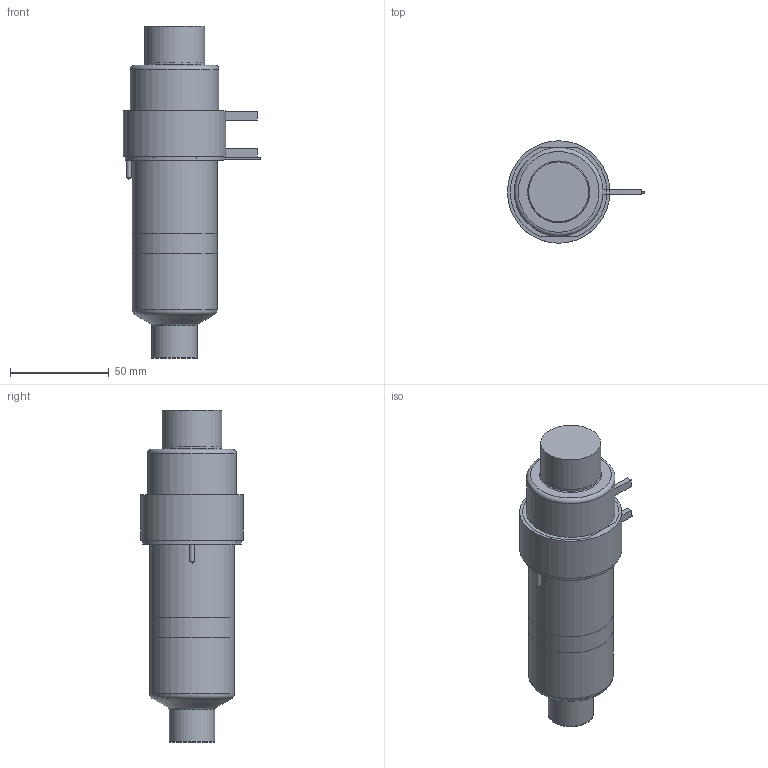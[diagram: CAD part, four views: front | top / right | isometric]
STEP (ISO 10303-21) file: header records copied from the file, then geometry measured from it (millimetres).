
FILE_DESCRIPTION(/* description */ (''),/* implementation_level */ '2;1');
FILE_NAME(/* name */ 'SXTSN-SXISN-SXOSN27095_200C_b',/* time_stamp */ '2007-01-24T17:17:54+13:00',/* author */ (''),/* organization */ (''),/* preprocessor_version */ 'ST-DEVELOPER v9',/* originating_system */ 'UGS - NX 4.0',/* authorisation */ '');
FILE_SCHEMA (('CONFIG_CONTROL_DESIGN'));
Length unit declared in the file: millimetre
Products named in the file (1): SXTSN-SXISN-SXOSN27095_200C_b
Bounding box: 69.6 x 52 x 168.46 mm (x, y, z)
Volume: 411597.9 mm3; surface area: 52622.9 mm2
Topology: 7 solids, 7 shells, 92 faces, 181 edges, 117 vertices
Faces by surface type: plane 43, cylinder 28, cone 10, torus 10, bspline 1
Full cylindrical faces by diameter (mm): 1 x3, 2 x1, 2.5 x2, 12 x1, 22.61 x1, 23.01 x2, 27.5 x1, 30 x1, 30.4 x1, 38.1 x2, 43 x2, 45 x1, 50 x1, 52 x1
Entity records: 2377 total; most frequent: CARTESIAN_POINT 543, DIRECTION 384, ORIENTED_EDGE 278, AXIS2_PLACEMENT_3D 167, EDGE_LOOP 140, EDGE_CURVE 139, VERTEX_POINT 110, ADVANCED_FACE 92
